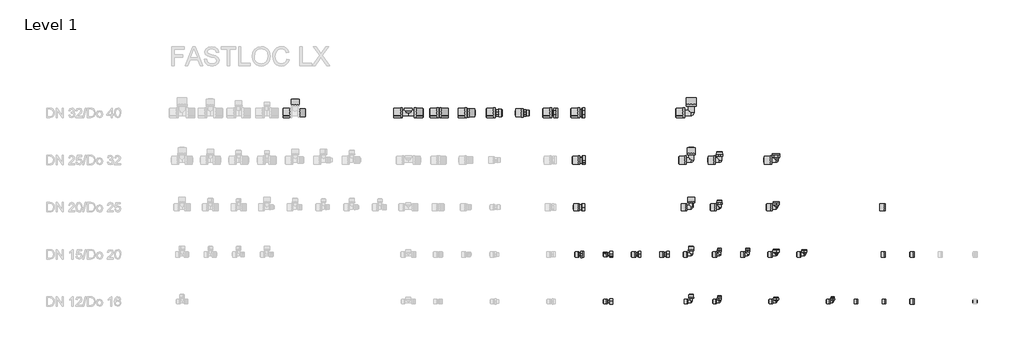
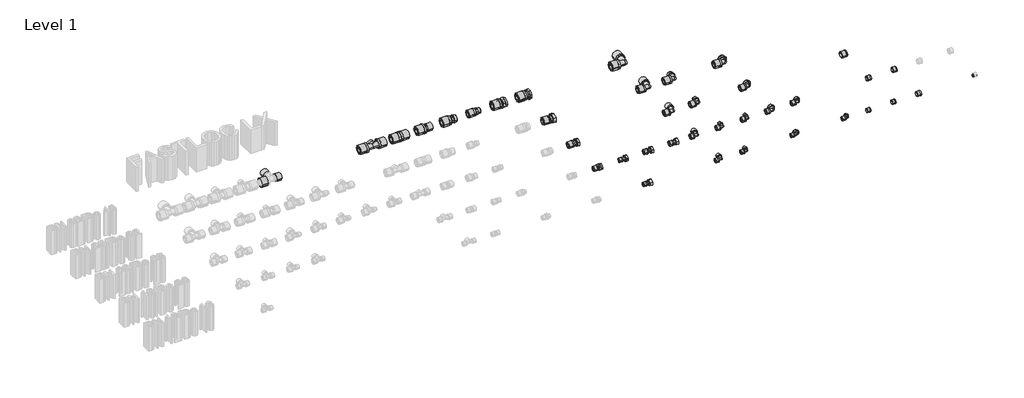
# One storey, part 3 of 4: 122 pipe fittings.
"""IFC4 building model written with IfcOpenShell, lengths in millimetres."""

from ifc_helpers import new_model, si_unit, origin, place, context, project, spatial, transform, mapped, element, save
from components import pipe_fitting_9e10578f, pipe_fitting_d1512616, pipe_fitting_53f43fdb, pipe_fitting_049613d0, pipe_fitting_50501386, pipe_fitting_01ff2310, pipe_fitting_9a552a0b, pipe_fitting_933a2e3b, pipe_fitting_c7c0347b, pipe_fitting_e0dfd6fd, pipe_fitting_bcc3186d, pipe_fitting_f7503da1, pipe_fitting_c58ddc77, pipe_fitting_002f9ae5, pipe_fitting_d68833d0, pipe_fitting_dabf108d, pipe_fitting_daad601f, pipe_fitting_3262be86, pipe_fitting_8c837d00, pipe_fitting_945405e2, pipe_fitting_fbe8b16e, pipe_fitting_253e9152, pipe_fitting_3a174489, pipe_fitting_05069365, pipe_fitting_bca47405, pipe_fitting_6786ca7f, pipe_fitting_3acb888a, pipe_fitting_35dab2b8, pipe_fitting_13315931, pipe_fitting_556e0823, pipe_fitting_0da8c5a8, pipe_fitting_e16683b4, pipe_fitting_32bb0f4b, pipe_fitting_87b3d625, pipe_fitting_c4201b5f, pipe_fitting_57945d78, sleeve_fsl_pvdf_6f319e2d, sleeve_fsl_pvdf_957fc3e3, sleeve_fsl_pvdf_9ecdae78, sleeve_fsl_pvdf_b286e573, sleeve_fsl_pvdf_64652941, sleeve_fsl_pvdf_bb947688

model = new_model("IFC4")

# Units and contexts
model_context = context("Model", 3, world=origin())
ifc_project = project(units=[si_unit("LENGTHUNIT", "METRE", prefix="MILLI")], contexts=[model_context])

# Site, building, storey
site = spatial("IfcSite", under=ifc_project)
building = spatial("IfcBuilding", under=site)
storey = spatial("IfcBuildingStorey", under=building, Name="Level 1", Elevation=0.0)

# Pipe fittings
placement = place(None, origin())
pipe_fitting_shape = pipe_fitting_9e10578f(model_context)
element("IfcPipeFitting", 1, ObjectType="FASTLOC_Sleeve outside : FSL S O DN1", at=placement, inside=storey, context=model_context, shape_type="MappedRepresentation", body=[
    mapped(pipe_fitting_shape, transform((3881.7, 0.0, 0.0), x_axis=(-1.0, 0.0, 0.0), y_axis=(0.0, -1.0, 0.0), z_axis=(0.0, 0.0, 1.0))),
])
pipe_fitting_2_shape = pipe_fitting_d1512616(model_context)
element("IfcPipeFitting", 2, ObjectType="FASTLOC_Sleeve outside : FSL S O DN1", at=placement, inside=storey, context=model_context, shape_type="MappedRepresentation", body=[
    mapped(pipe_fitting_2_shape, transform((3731.5, 0.0, 0.0), x_axis=(-1.0, 0.0, 0.0), y_axis=(0.0, -1.0, 0.0), z_axis=(0.0, 0.0, 1.0))),
])
element("IfcPipeFitting", 3, ObjectType="FASTLOC_Sleeve outside : FSL S O DN1", at=placement, inside=storey, context=model_context, shape_type="MappedRepresentation", body=[
    mapped(pipe_fitting_2_shape, transform((2254.0, 250.0, 0.0), x_axis=(-1.0, 0.0, 0.0), y_axis=(0.0, -1.0, 0.0), z_axis=(0.0, 0.0, 1.0))),
])
element("IfcPipeFitting", 4, ObjectType="FASTLOC_Sleeve outside : FSL S O DN1", at=placement, inside=storey, context=model_context, shape_type="MappedRepresentation", body=[
    mapped(pipe_fitting_2_shape, transform((2254.0, 0.0, 0.0), x_axis=(-1.0, 0.0, 0.0), y_axis=(0.0, -1.0, 0.0), z_axis=(0.0, 0.0, 1.0))),
])
element("IfcPipeFitting", 5, ObjectType="FASTLOC_Sleeve outside : FSL S O DN1", at=placement, inside=storey, context=model_context, shape_type="MappedRepresentation", body=[
    mapped(pipe_fitting_2_shape, transform((2681.9, 0.0, 0.0), x_axis=(-1.0, 0.0, 0.0), y_axis=(0.0, -1.0, 0.0), z_axis=(0.0, 0.0, 1.0))),
])
element("IfcPipeFitting", 6, ObjectType="FASTLOC_Sleeve outside : FSL S O DN1", at=placement, inside=storey, context=model_context, shape_type="MappedRepresentation", body=[
    mapped(pipe_fitting_2_shape, transform((2700.0, 18.1, 0.0), x_axis=(0.0, 1.0, 0.0), y_axis=(-1.0, 0.0, 0.0), z_axis=(0.0, 0.0, 1.0))),
])
element("IfcPipeFitting", 7, ObjectType="FASTLOC_Sleeve outside : FSL S O DN1", at=placement, inside=storey, context=model_context, shape_type="MappedRepresentation", body=[
    mapped(pipe_fitting_2_shape, transform((3131.7, 0.0, 0.0), x_axis=(-1.0, 0.0, 0.0), y_axis=(0.0, -1.0, 0.0), z_axis=(0.0, 0.0, 1.0))),
])
element("IfcPipeFitting", 8, ObjectType="FASTLOC_Sleeve outside : FSL S O DN1", at=placement, inside=storey, context=model_context, shape_type="MappedRepresentation", body=[
    mapped(pipe_fitting_2_shape, transform((3436.2, 0.0, 0.0), x_axis=(-1.0, 0.0, 0.0), y_axis=(0.0, -1.0, 0.0), z_axis=(0.0, 0.0, 1.0))),
])
element("IfcPipeFitting", 9, ObjectType="FASTLOC_Sleeve outside : FSL S O DN1", at=placement, inside=storey, context=model_context, shape_type="MappedRepresentation", body=[
    mapped(pipe_fitting_2_shape, transform((2834.2, 0.0, 0.0), x_axis=(-1.0, 0.0, 0.0), y_axis=(0.0, -1.0, 0.0), z_axis=(0.0, 0.0, 1.0))),
])
element("IfcPipeFitting", 10, ObjectType="FASTLOC_Sleeve outside : FSL S O DN1", at=placement, inside=storey, context=model_context, shape_type="MappedRepresentation", body=[
    mapped(pipe_fitting_2_shape, transform((3583.0, 0.0, 0.0), x_axis=(-1.0, 0.0, 0.0), y_axis=(0.0, -1.0, 0.0), z_axis=(0.0, 0.0, 1.0))),
])
pipe_fitting_3_shape = pipe_fitting_53f43fdb(model_context)
element("IfcPipeFitting", 11, ObjectType="FASTLOC_Sleeve outside : FSL S O DN1", at=placement, inside=storey, context=model_context, shape_type="MappedRepresentation", body=[
    mapped(pipe_fitting_3_shape, transform((3882.0, 250.0, 0.0), x_axis=(-1.0, 0.0, 0.0), y_axis=(0.0, -1.0, 0.0), z_axis=(0.0, 0.0, 1.0))),
])
element("IfcPipeFitting", 12, ObjectType="FASTLOC_Sleeve outside : FSL S O DN1", at=placement, inside=storey, context=model_context, shape_type="MappedRepresentation", body=[
    mapped(pipe_fitting_3_shape, transform((3728.7, 250.0, 0.0), x_axis=(-1.0, 0.0, 0.0), y_axis=(0.0, -1.0, 0.0), z_axis=(0.0, 0.0, 1.0))),
])
element("IfcPipeFitting", 13, ObjectType="FASTLOC_Sleeve outside : FSL S O DN1", at=placement, inside=storey, context=model_context, shape_type="MappedRepresentation", body=[
    mapped(pipe_fitting_3_shape, transform((2404.7, 250.0, 0.0), x_axis=(-1.0, 0.0, 0.0), y_axis=(0.0, -1.0, 0.0), z_axis=(0.0, 0.0, 1.0))),
])
element("IfcPipeFitting", 14, ObjectType="FASTLOC_Sleeve outside : FSL S O DN1", at=placement, inside=storey, context=model_context, shape_type="MappedRepresentation", body=[
    mapped(pipe_fitting_3_shape, transform((2554.7, 250.0, 0.0), x_axis=(-1.0, 0.0, 0.0), y_axis=(0.0, -1.0, 0.0), z_axis=(0.0, 0.0, 1.0))),
])
element("IfcPipeFitting", 15, ObjectType="FASTLOC_Sleeve outside : FSL S O DN1", at=placement, inside=storey, context=model_context, shape_type="MappedRepresentation", body=[
    mapped(pipe_fitting_3_shape, transform((2104.7, 250.0, 0.0), x_axis=(-1.0, 0.0, 0.0), y_axis=(0.0, -1.0, 0.0), z_axis=(0.0, 0.0, 1.0))),
])
element("IfcPipeFitting", 16, ObjectType="FASTLOC_Sleeve outside : FSL S O DN1", at=placement, inside=storey, context=model_context, shape_type="MappedRepresentation", body=[
    mapped(pipe_fitting_3_shape, transform((2680.1, 250.0, 0.0), x_axis=(-1.0, 0.0, 0.0), y_axis=(0.0, -1.0, 0.0), z_axis=(0.0, 0.0, 1.0))),
])
element("IfcPipeFitting", 17, ObjectType="FASTLOC_Sleeve outside : FSL S O DN1", at=placement, inside=storey, context=model_context, shape_type="MappedRepresentation", body=[
    mapped(pipe_fitting_3_shape, transform((2700.0, 269.9, 0.0), x_axis=(0.0, 1.0, 0.0), y_axis=(-1.0, 0.0, 0.0), z_axis=(0.0, 0.0, 1.0))),
])
element("IfcPipeFitting", 18, ObjectType="FASTLOC_Sleeve outside : FSL S O DN1", at=placement, inside=storey, context=model_context, shape_type="MappedRepresentation", body=[
    mapped(pipe_fitting_3_shape, transform((3282.0, 250.0, 0.0), x_axis=(-1.0, 0.0, 0.0), y_axis=(0.0, -1.0, 0.0), z_axis=(0.0, 0.0, 1.0))),
])
element("IfcPipeFitting", 19, ObjectType="FASTLOC_Sleeve outside : FSL S O DN1", at=placement, inside=storey, context=model_context, shape_type="MappedRepresentation", body=[
    mapped(pipe_fitting_3_shape, transform((3128.7, 250.0, 0.0), x_axis=(-1.0, 0.0, 0.0), y_axis=(0.0, -1.0, 0.0), z_axis=(0.0, 0.0, 1.0))),
])
element("IfcPipeFitting", 20, ObjectType="FASTLOC_Sleeve outside : FSL S O DN1", at=placement, inside=storey, context=model_context, shape_type="MappedRepresentation", body=[
    mapped(pipe_fitting_3_shape, transform((2834.5, 250.0, 0.0), x_axis=(-1.0, 0.0, 0.0), y_axis=(0.0, -1.0, 0.0), z_axis=(0.0, 0.0, 1.0))),
])
element("IfcPipeFitting", 21, ObjectType="FASTLOC_Sleeve outside : FSL S O DN1", at=placement, inside=storey, context=model_context, shape_type="MappedRepresentation", body=[
    mapped(pipe_fitting_3_shape, transform((2984.5, 250.0, 0.0), x_axis=(-1.0, 0.0, 0.0), y_axis=(0.0, -1.0, 0.0), z_axis=(0.0, 0.0, 1.0))),
])
pipe_fitting_4_shape = pipe_fitting_049613d0(model_context)
element("IfcPipeFitting", 22, ObjectType="FASTLOC_Sleeve outside : FSL S O DN1", at=placement, inside=storey, context=model_context, shape_type="MappedRepresentation", body=[
    mapped(pipe_fitting_4_shape, transform((3729.1, 500.0, 0.0), x_axis=(-1.0, 0.0, 0.0), y_axis=(0.0, -1.0, 0.0), z_axis=(0.0, 0.0, 1.0))),
])
element("IfcPipeFitting", 23, ObjectType="FASTLOC_Sleeve outside : FSL S O DN1", at=placement, inside=storey, context=model_context, shape_type="MappedRepresentation", body=[
    mapped(pipe_fitting_4_shape, transform((2105.7, 500.0, 0.0), x_axis=(-1.0, 0.0, 0.0), y_axis=(0.0, -1.0, 0.0), z_axis=(0.0, 0.0, 1.0))),
])
element("IfcPipeFitting", 24, ObjectType="FASTLOC_Sleeve outside : FSL S O DN1", at=placement, inside=storey, context=model_context, shape_type="MappedRepresentation", body=[
    mapped(pipe_fitting_4_shape, transform((2677.0, 500.0, 0.0), x_axis=(-1.0, 0.0, 0.0), y_axis=(0.0, -1.0, 0.0), z_axis=(0.0, 0.0, 1.0))),
])
element("IfcPipeFitting", 25, ObjectType="FASTLOC_Sleeve outside : FSL S O DN1", at=placement, inside=storey, context=model_context, shape_type="MappedRepresentation", body=[
    mapped(pipe_fitting_4_shape, transform((2700.0, 523.0, 0.0), x_axis=(0.0, 1.0, 0.0), y_axis=(-1.0, 0.0, 0.0), z_axis=(0.0, 0.0, 1.0))),
])
element("IfcPipeFitting", 26, ObjectType="FASTLOC_Sleeve outside : FSL S O DN1", at=placement, inside=storey, context=model_context, shape_type="MappedRepresentation", body=[
    mapped(pipe_fitting_4_shape, transform((3129.0, 500.0, 0.0), x_axis=(-1.0, 0.0, 0.0), y_axis=(0.0, -1.0, 0.0), z_axis=(0.0, 0.0, 1.0))),
])
element("IfcPipeFitting", 27, ObjectType="FASTLOC_Sleeve outside : FSL S O DN1", at=placement, inside=storey, context=model_context, shape_type="MappedRepresentation", body=[
    mapped(pipe_fitting_4_shape, transform((2831.8, 500.0, 0.0), x_axis=(-1.0, 0.0, 0.0), y_axis=(0.0, -1.0, 0.0), z_axis=(0.0, 0.0, 1.0))),
])
pipe_fitting_5_shape = pipe_fitting_50501386(model_context)
element("IfcPipeFitting", 28, ObjectType="FASTLOC_Adapter with union nut LX : FSL A union nut PL", at=placement, inside=storey, context=model_context, shape_type="MappedRepresentation", body=[
    mapped(pipe_fitting_5_shape, transform((2259.0, 250.0, 0.0), x_axis=(1.0, 0.0, 0.0), y_axis=(0.0, 1.0, 0.0), z_axis=(0.0, 0.0, 1.0))),
])
pipe_fitting_6_shape = pipe_fitting_01ff2310(model_context)
element("IfcPipeFitting", 29, ObjectType="FASTLOC_Adapter with union nut LX : FSL A union nut PL", at=placement, inside=storey, context=model_context, shape_type="MappedRepresentation", body=[
    mapped(pipe_fitting_6_shape, transform((2409.0, 250.0, 0.0), x_axis=(1.0, 0.0, 0.0), y_axis=(0.0, 1.0, 0.0), z_axis=(0.0, 0.0, 1.0))),
])
pipe_fitting_7_shape = pipe_fitting_9a552a0b(model_context)
element("IfcPipeFitting", 30, ObjectType="FASTLOC_Adapter with union nut LX : FSL A union nut PL", at=placement, inside=storey, context=model_context, shape_type="MappedRepresentation", body=[
    mapped(pipe_fitting_7_shape, transform((2559.0, 250.0, 0.0), x_axis=(1.0, 0.0, 0.0), y_axis=(0.0, 1.0, 0.0), z_axis=(0.0, 0.0, 1.0))),
])
pipe_fitting_8_shape = pipe_fitting_933a2e3b(model_context)
element("IfcPipeFitting", 31, ObjectType="FASTLOC_Adapter with union nut LX : FSL A union nut PL", at=placement, inside=storey, context=model_context, shape_type="MappedRepresentation", body=[
    mapped(pipe_fitting_8_shape, transform((2110.0, 500.0, 0.0), x_axis=(1.0, 0.0, 0.0), y_axis=(0.0, 1.0, 0.0), z_axis=(0.0, 0.0, 1.0))),
])
pipe_fitting_9_shape = pipe_fitting_c7c0347b(model_context)
element("IfcPipeFitting", 32, ObjectType="FASTLOC_Sleeve outside : FSL S O DN1", at=placement, inside=storey, context=model_context, shape_type="MappedRepresentation", body=[
    mapped(pipe_fitting_9_shape, transform((2108.0, 750.0, 0.0), x_axis=(-1.0, 0.0, 0.0), y_axis=(0.0, -1.0, 0.0), z_axis=(0.0, 0.0, 1.0))),
])
element("IfcPipeFitting", 33, ObjectType="FASTLOC_Sleeve outside : FSL S O DN1", at=placement, inside=storey, context=model_context, shape_type="MappedRepresentation", body=[
    mapped(pipe_fitting_9_shape, transform((1808.0, 1000.0, 0.0), x_axis=(-1.0, 0.0, 0.0), y_axis=(0.0, -1.0, 0.0), z_axis=(0.0, 0.0, 1.0))),
])
element("IfcPipeFitting", 34, ObjectType="FASTLOC_Sleeve outside : FSL S O DN1", at=placement, inside=storey, context=model_context, shape_type="MappedRepresentation", body=[
    mapped(pipe_fitting_9_shape, transform((2673.0, 750.0, 0.0), x_axis=(-1.0, 0.0, 0.0), y_axis=(0.0, -1.0, 0.0), z_axis=(0.0, 0.0, 1.0))),
])
element("IfcPipeFitting", 35, ObjectType="FASTLOC_Sleeve outside : FSL S O DN1", at=placement, inside=storey, context=model_context, shape_type="MappedRepresentation", body=[
    mapped(pipe_fitting_9_shape, transform((2700.0, 777.0, 0.0), x_axis=(0.0, 1.0, 0.0), y_axis=(-1.0, 0.0, 0.0), z_axis=(0.0, 0.0, 1.0))),
])
element("IfcPipeFitting", 36, ObjectType="FASTLOC_Sleeve outside : FSL S O DN1", at=placement, inside=storey, context=model_context, shape_type="MappedRepresentation", body=[
    mapped(pipe_fitting_9_shape, transform((1514.5, 1000.0, 0.0), x_axis=(1.0, 0.0, 0.0), y_axis=(0.0, 1.0, 0.0), z_axis=(0.0, 0.0, 1.0))),
])
element("IfcPipeFitting", 37, ObjectType="FASTLOC_Sleeve outside : FSL S O DN1", at=placement, inside=storey, context=model_context, shape_type="MappedRepresentation", body=[
    mapped(pipe_fitting_9_shape, transform((3126.0, 750.0, 0.0), x_axis=(-1.0, 0.0, 0.0), y_axis=(0.0, -1.0, 0.0), z_axis=(0.0, 0.0, 1.0))),
])
element("IfcPipeFitting", 38, ObjectType="FASTLOC_Sleeve outside : FSL S O DN1", at=placement, inside=storey, context=model_context, shape_type="MappedRepresentation", body=[
    mapped(pipe_fitting_9_shape, transform((2828.3, 750.0, 0.0), x_axis=(-1.0, 0.0, 0.0), y_axis=(0.0, -1.0, 0.0), z_axis=(0.0, 0.0, 1.0))),
])
pipe_fitting_10_shape = pipe_fitting_e0dfd6fd(model_context)
element("IfcPipeFitting", 39, ObjectType="FASTLOC_Adapter with union nut LX : FSL A union nut PL", at=placement, inside=storey, context=model_context, shape_type="MappedRepresentation", body=[
    mapped(pipe_fitting_10_shape, transform((2110.0, 1000.0, 0.0), x_axis=(1.0, 0.0, 0.0), y_axis=(0.0, 1.0, 0.0), z_axis=(0.0, 0.0, 1.0))),
])
pipe_fitting_11_shape = pipe_fitting_bcc3186d(model_context)
element("IfcPipeFitting", 40, ObjectType="FASTLOC_Sleeve outside : FSL S O DN1", at=placement, inside=storey, context=model_context, shape_type="MappedRepresentation", body=[
    mapped(pipe_fitting_11_shape, transform((2108.5, 1000.0, 0.0), x_axis=(-1.0, 0.0, 0.0), y_axis=(0.0, -1.0, 0.0), z_axis=(0.0, 0.0, 1.0))),
])
element("IfcPipeFitting", 41, ObjectType="FASTLOC_Sleeve outside : FSL S O DN1", at=placement, inside=storey, context=model_context, shape_type="MappedRepresentation", body=[
    mapped(pipe_fitting_11_shape, transform((1660.0, 1000.0, 0.0), x_axis=(-1.0, 0.0, 0.0), y_axis=(0.0, -1.0, 0.0), z_axis=(0.0, 0.0, 1.0))),
])
element("IfcPipeFitting", 42, ObjectType="FASTLOC_Sleeve outside : FSL S O DN1", at=placement, inside=storey, context=model_context, shape_type="MappedRepresentation", body=[
    mapped(pipe_fitting_11_shape, transform((1960.0, 1000.0, 0.0), x_axis=(-1.0, 0.0, 0.0), y_axis=(0.0, -1.0, 0.0), z_axis=(0.0, 0.0, 1.0))),
])
element("IfcPipeFitting", 43, ObjectType="FASTLOC_Sleeve outside : FSL S O DN1", at=placement, inside=storey, context=model_context, shape_type="MappedRepresentation", body=[
    mapped(pipe_fitting_11_shape, transform((2665.3, 1000.0, 0.0), x_axis=(-1.0, 0.0, 0.0), y_axis=(0.0, -1.0, 0.0), z_axis=(0.0, 0.0, 1.0))),
])
element("IfcPipeFitting", 44, ObjectType="FASTLOC_Sleeve outside : FSL S O DN1", at=placement, inside=storey, context=model_context, shape_type="MappedRepresentation", body=[
    mapped(pipe_fitting_11_shape, transform((2700.0, 1034.7, 0.0), x_axis=(0.0, 1.0, 0.0), y_axis=(-1.0, 0.0, 0.0), z_axis=(0.0, 0.0, 1.0))),
])
element("IfcPipeFitting", 45, ObjectType="FASTLOC_Sleeve outside : FSL S O DN1", at=placement, inside=storey, context=model_context, shape_type="MappedRepresentation", body=[
    mapped(pipe_fitting_11_shape, transform((1360.0, 1000.0, 0.0), x_axis=(-1.0, 0.0, 0.0), y_axis=(0.0, -1.0, 0.0), z_axis=(0.0, 0.0, 1.0))),
])
element("IfcPipeFitting", 46, ObjectType="FASTLOC_Sleeve outside : FSL S O DN1", at=placement, inside=storey, context=model_context, shape_type="MappedRepresentation", body=[
    mapped(pipe_fitting_11_shape, transform((1365.4, 1000.0, 0.0), x_axis=(1.0, 0.0, 0.0), y_axis=(0.0, 1.0, 0.0), z_axis=(0.0, 0.0, 1.0))),
])
element("IfcPipeFitting", 47, ObjectType="FASTLOC_Sleeve outside : FSL S O DN1", at=placement, inside=storey, context=model_context, shape_type="MappedRepresentation", body=[
    mapped(pipe_fitting_11_shape, transform((1510.0, 1000.0, 0.0), x_axis=(-1.0, 0.0, 0.0), y_axis=(0.0, -1.0, 0.0), z_axis=(0.0, 0.0, 1.0))),
])
element("IfcPipeFitting", 48, ObjectType="FASTLOC_Sleeve outside : FSL S O DN1", at=placement, inside=storey, context=model_context, shape_type="MappedRepresentation", body=[
    mapped(pipe_fitting_11_shape, transform((1168.7, 1000.0, 0.0), x_axis=(-1.0, 0.0, 0.0), y_axis=(0.0, -1.0, 0.0), z_axis=(0.0, 0.0, 1.0))),
])
element("IfcPipeFitting", 49, ObjectType="FASTLOC_Sleeve outside : FSL S O DN1", at=placement, inside=storey, context=model_context, shape_type="MappedRepresentation", body=[
    mapped(pipe_fitting_11_shape, transform((1231.3, 1000.0, 0.0), x_axis=(1.0, 0.0, 0.0), y_axis=(0.0, 1.0, 0.0), z_axis=(0.0, 0.0, 1.0))),
])
pipe_fitting_12_shape = pipe_fitting_f7503da1(model_context)
element("IfcPipeFitting", 50, ObjectType="FASTLOC_Adapter with union nut LX : FSL A union nut PL", at=placement, inside=storey, context=model_context, shape_type="MappedRepresentation", body=[
    mapped(pipe_fitting_12_shape, transform((2259.0, 0.0, 0.0), x_axis=(1.0, 0.0, 0.0), y_axis=(0.0, 1.0, 0.0), z_axis=(0.0, 0.0, 1.0))),
])
pipe_fitting_13_shape = pipe_fitting_c58ddc77(model_context)
element("IfcPipeFitting", 51, ObjectType="FASTLOC_Adapter_LX, with external thread : FSL A C external PL", at=placement, inside=storey, context=model_context, shape_type="MappedRepresentation", body=[
    mapped(pipe_fitting_13_shape, transform((1814.6, 1000.0, 0.0), x_axis=(1.0, 0.0, 0.0), y_axis=(0.0, 1.0, 0.0), z_axis=(0.0, 0.0, 1.0))),
])
pipe_fitting_14_shape = pipe_fitting_002f9ae5(model_context)
element("IfcPipeFitting", 52, ObjectType="FASTLOC_Adapter_LX, with external thread : FSL A C external PL", at=placement, inside=storey, context=model_context, shape_type="MappedRepresentation", body=[
    mapped(pipe_fitting_14_shape, transform((1666.4, 1000.0, 0.0), x_axis=(1.0, 0.0, 0.0), y_axis=(0.0, 1.0, 0.0), z_axis=(0.0, 0.0, 1.0))),
])
pipe_fitting_15_shape = pipe_fitting_d68833d0(model_context)
element("IfcPipeFitting", 53, ObjectType="FASTLOC_Adapter_LX, with internal thread : FSL A internal PL", at=placement, inside=storey, context=model_context, shape_type="MappedRepresentation", body=[
    mapped(pipe_fitting_15_shape, transform((2113.3, 250.0, 0.0), x_axis=(1.0, 0.0, 0.0), y_axis=(0.0, 1.0, 0.0), z_axis=(0.0, 0.0, 1.0))),
])
pipe_fitting_16_shape = pipe_fitting_dabf108d(model_context)
element("IfcPipeFitting", 54, ObjectType="FASTLOC_Adapter_LX, with internal thread : FSL A internal PL", at=placement, inside=storey, context=model_context, shape_type="MappedRepresentation", body=[
    mapped(pipe_fitting_16_shape, transform((1970.0, 1000.0, 0.0), x_axis=(1.0, 0.0, 0.0), y_axis=(0.0, 1.0, 0.0), z_axis=(0.0, 0.0, 1.0))),
])
pipe_fitting_17_shape = pipe_fitting_daad601f(model_context)
element("IfcPipeFitting", 55, ObjectType="FASTLOC_Corner LX : FSL C LX PL", at=placement, inside=storey, context=model_context, shape_type="MappedRepresentation", body=[
    mapped(pipe_fitting_17_shape, transform((2700.0, 250.0, 0.0), x_axis=(1.0, 0.0, 0.0), y_axis=(0.0, 1.0, 0.0), z_axis=(0.0, 0.0, 1.0))),
])
pipe_fitting_18_shape = pipe_fitting_3262be86(model_context)
element("IfcPipeFitting", 56, ObjectType="FASTLOC_Corner LX : FSL C LX PL", at=placement, inside=storey, context=model_context, shape_type="MappedRepresentation", body=[
    mapped(pipe_fitting_18_shape, transform((2700.0, 500.0, 0.0), x_axis=(1.0, 0.0, 0.0), y_axis=(0.0, 1.0, 0.0), z_axis=(0.0, 0.0, 1.0))),
])
pipe_fitting_19_shape = pipe_fitting_8c837d00(model_context)
element("IfcPipeFitting", 57, ObjectType="FASTLOC_Corner LX : FSL C LX PL", at=placement, inside=storey, context=model_context, shape_type="MappedRepresentation", body=[
    mapped(pipe_fitting_19_shape, transform((2700.0, 750.0, 0.0), x_axis=(1.0, 0.0, 0.0), y_axis=(0.0, 1.0, 0.0), z_axis=(0.0, 0.0, 1.0))),
])
pipe_fitting_20_shape = pipe_fitting_945405e2(model_context)
element("IfcPipeFitting", 58, ObjectType="FASTLOC_Corner LX : FSL C LX PL", at=placement, inside=storey, context=model_context, shape_type="MappedRepresentation", body=[
    mapped(pipe_fitting_20_shape, transform((2700.0, 1000.0, 0.0), x_axis=(1.0, 0.0, 0.0), y_axis=(0.0, 1.0, 0.0), z_axis=(0.0, 0.0, 1.0))),
])
pipe_fitting_21_shape = pipe_fitting_fbe8b16e(model_context)
element("IfcPipeFitting", 59, ObjectType="FASTLOC_Coupling equal LX : FSL C LX PL", at=placement, inside=storey, context=model_context, shape_type="MappedRepresentation", body=[
    mapped(pipe_fitting_21_shape, transform((1362.7, 1000.0, 0.0), x_axis=(1.0, 0.0, 0.0), y_axis=(0.0, 1.0, 0.0), z_axis=(0.0, 0.0, 1.0))),
])
pipe_fitting_22_shape = pipe_fitting_253e9152(model_context)
element("IfcPipeFitting", 60, ObjectType="FASTLOC_Elbow with female thread LX : FSL A internal PL", at=placement, inside=storey, context=model_context, shape_type="MappedRepresentation", body=[
    mapped(pipe_fitting_22_shape, transform((3300.0, 250.0, 0.0), x_axis=(1.0, 0.0, 0.0), y_axis=(0.0, 1.0, 0.0), z_axis=(0.0, 0.0, 1.0))),
])
pipe_fitting_23_shape = pipe_fitting_3a174489(model_context)
element("IfcPipeFitting", 61, ObjectType="FASTLOC_Elbow with female thread LX : FSL A internal PL", at=placement, inside=storey, context=model_context, shape_type="MappedRepresentation", body=[
    mapped(pipe_fitting_23_shape, transform((3150.0, 250.0, 0.0), x_axis=(1.0, 0.0, 0.0), y_axis=(0.0, 1.0, 0.0), z_axis=(0.0, 0.0, 1.0))),
])
pipe_fitting_24_shape = pipe_fitting_05069365(model_context)
element("IfcPipeFitting", 62, ObjectType="FASTLOC_Elbow with female thread LX : FSL A internal PL", at=placement, inside=storey, context=model_context, shape_type="MappedRepresentation", body=[
    mapped(pipe_fitting_24_shape, transform((3150.0, 500.0, 0.0), x_axis=(1.0, 0.0, 0.0), y_axis=(0.0, 1.0, 0.0), z_axis=(0.0, 0.0, 1.0))),
])
pipe_fitting_25_shape = pipe_fitting_bca47405(model_context)
element("IfcPipeFitting", 63, ObjectType="FASTLOC_Elbow with female thread LX : FSL A internal PL", at=placement, inside=storey, context=model_context, shape_type="MappedRepresentation", body=[
    mapped(pipe_fitting_25_shape, transform((3150.0, 750.0, 0.0), x_axis=(1.0, 0.0, 0.0), y_axis=(0.0, 1.0, 0.0), z_axis=(0.0, 0.0, 1.0))),
])
pipe_fitting_26_shape = pipe_fitting_6786ca7f(model_context)
element("IfcPipeFitting", 64, ObjectType="FASTLOC_Elbow with male thread LX : FSL A internal PL", at=placement, inside=storey, context=model_context, shape_type="MappedRepresentation", body=[
    mapped(pipe_fitting_26_shape, transform((2850.0, 500.0, 0.0), x_axis=(1.0, 0.0, 0.0), y_axis=(0.0, 1.0, 0.0), z_axis=(0.0, 0.0, 1.0))),
])
pipe_fitting_27_shape = pipe_fitting_3acb888a(model_context)
element("IfcPipeFitting", 65, ObjectType="FASTLOC_Elbow with male thread LX : FSL A internal PL", at=placement, inside=storey, context=model_context, shape_type="MappedRepresentation", body=[
    mapped(pipe_fitting_27_shape, transform((2850.0, 750.0, 0.0), x_axis=(1.0, 0.0, 0.0), y_axis=(0.0, 1.0, 0.0), z_axis=(0.0, 0.0, 1.0))),
])
pipe_fitting_28_shape = pipe_fitting_35dab2b8(model_context)
element("IfcPipeFitting", 66, ObjectType="FASTLOC_T-piece internal thread LX : FSL T thread LX PL", at=placement, inside=storey, context=model_context, shape_type="MappedRepresentation", body=[
    mapped(pipe_fitting_28_shape, transform((1200.0, 1000.0, 0.0), x_axis=(1.0, 0.0, 0.0), y_axis=(0.0, 1.0, 0.0), z_axis=(0.0, 0.0, 1.0))),
])
pipe_fitting_29_shape = pipe_fitting_13315931(model_context)
element("IfcPipeFitting", 67, ObjectType="FASTLOC_Elbow with male thread LX : FSL A internal PL", at=placement, inside=storey, context=model_context, shape_type="MappedRepresentation", body=[
    mapped(pipe_fitting_29_shape, transform((2850.0, 0.0, 0.0), x_axis=(1.0, 0.0, 0.0), y_axis=(0.0, 1.0, 0.0), z_axis=(0.0, 0.0, 1.0))),
])
pipe_fitting_30_shape = pipe_fitting_556e0823(model_context)
element("IfcPipeFitting", 68, ObjectType="FASTLOC_Adapter with union nut LX : FSL A union nut PL", at=placement, inside=storey, context=model_context, shape_type="MappedRepresentation", body=[
    mapped(pipe_fitting_30_shape, transform((2111.5, 750.0, 0.0), x_axis=(1.0, 0.0, 0.0), y_axis=(0.0, 1.0, 0.0), z_axis=(0.0, 0.0, 1.0))),
])
pipe_fitting_31_shape = pipe_fitting_0da8c5a8(model_context)
element("IfcPipeFitting", 69, ObjectType="FASTLOC_Blanking plug LX : FSL Bp LX PL", at=placement, inside=storey, context=model_context, shape_type="MappedRepresentation", body=[
    mapped(pipe_fitting_31_shape, transform((4193.3, 0.0, 0.0), x_axis=(1.0, 0.0, 0.0), y_axis=(0.0, 1.0, 0.0), z_axis=(0.0, 0.0, 1.0))),
])
pipe_fitting_32_shape = pipe_fitting_e16683b4(model_context)
element("IfcPipeFitting", 70, ObjectType="FASTLOC_Corner LX : FSL C LX PL", at=placement, inside=storey, context=model_context, shape_type="MappedRepresentation", body=[
    mapped(pipe_fitting_32_shape, transform((2700.0, 0.0, 0.0), x_axis=(1.0, 0.0, 0.0), y_axis=(0.0, 1.0, 0.0), z_axis=(0.0, 0.0, 1.0))),
])
pipe_fitting_33_shape = pipe_fitting_32bb0f4b(model_context)
element("IfcPipeFitting", 71, ObjectType="FASTLOC_Coupling reduced LX : FSL C LX PL", at=placement, inside=storey, context=model_context, shape_type="MappedRepresentation", body=[
    mapped(pipe_fitting_33_shape, transform((1511.6, 1000.0, 0.0), x_axis=(1.0, 0.0, 0.0), y_axis=(0.0, 1.0, 0.0), z_axis=(0.0, 0.0, 1.0))),
])
pipe_fitting_34_shape = pipe_fitting_87b3d625(model_context)
element("IfcPipeFitting", 72, ObjectType="FASTLOC_Elbow with female thread LX : FSL A internal PL", at=placement, inside=storey, context=model_context, shape_type="MappedRepresentation", body=[
    mapped(pipe_fitting_34_shape, transform((3150.0, 0.0, 0.0), x_axis=(1.0, 0.0, 0.0), y_axis=(0.0, 1.0, 0.0), z_axis=(0.0, 0.0, 1.0))),
])
pipe_fitting_35_shape = pipe_fitting_c4201b5f(model_context)
element("IfcPipeFitting", 73, ObjectType="FASTLOC_Elbow with male thread G LX : FSL A internal PL", at=placement, inside=storey, context=model_context, shape_type="MappedRepresentation", body=[
    mapped(pipe_fitting_35_shape, transform((3450.0, 0.0, 0.0), x_axis=(1.0, 0.0, 0.0), y_axis=(0.0, 1.0, 0.0), z_axis=(0.0, 0.0, 1.0))),
])
pipe_fitting_36_shape = pipe_fitting_57945d78(model_context)
element("IfcPipeFitting", 74, ObjectType="FASTLOC_Elbow with male thread LX : FSL A internal PL", at=placement, inside=storey, context=model_context, shape_type="MappedRepresentation", body=[
    mapped(pipe_fitting_36_shape, transform((2850.0, 250.0, 0.0), x_axis=(1.0, 0.0, 0.0), y_axis=(0.0, 1.0, 0.0), z_axis=(0.0, 0.0, 1.0))),
])
element("IfcPipeFitting", 75, ObjectType="FASTLOC_Elbow with male thread LX : FSL A internal PL", at=placement, inside=storey, context=model_context, shape_type="MappedRepresentation", body=[
    mapped(pipe_fitting_36_shape, transform((3000.0, 250.0, 0.0), x_axis=(1.0, 0.0, 0.0), y_axis=(0.0, 1.0, 0.0), z_axis=(0.0, 0.0, 1.0))),
])
sleeve_fsl_pvdf_shape = sleeve_fsl_pvdf_6f319e2d(model_context)
element("IfcPipeFitting", 76, ObjectType="Sleeve : FSL PVDF", at=placement, inside=storey, context=model_context, shape_type="MappedRepresentation", body=[
    mapped(sleeve_fsl_pvdf_shape, transform((3877.0, 0.0, 0.0), x_axis=(-1.0, 0.0, 0.0), y_axis=(0.0, -1.0, 0.0), z_axis=(0.0, 0.0, 1.0))),
])
sleeve_fsl_pvdf_2_shape = sleeve_fsl_pvdf_957fc3e3(model_context)
element("IfcPipeFitting", 77, ObjectType="Sleeve : FSL PVDF", at=placement, inside=storey, context=model_context, shape_type="MappedRepresentation", body=[
    mapped(sleeve_fsl_pvdf_2_shape, transform((3727.5, 0.0, 0.0), x_axis=(-1.0, 0.0, 0.0), y_axis=(0.0, -1.0, 0.0), z_axis=(0.0, 0.0, 1.0))),
])
element("IfcPipeFitting", 78, ObjectType="Sleeve : FSL PVDF", at=placement, inside=storey, context=model_context, shape_type="MappedRepresentation", body=[
    mapped(sleeve_fsl_pvdf_2_shape, transform((2250.0, 250.0, 0.0), x_axis=(-1.0, 0.0, 0.0), y_axis=(0.0, -1.0, 0.0), z_axis=(0.0, 0.0, 1.0))),
])
element("IfcPipeFitting", 79, ObjectType="Sleeve : FSL PVDF", at=placement, inside=storey, context=model_context, shape_type="MappedRepresentation", body=[
    mapped(sleeve_fsl_pvdf_2_shape, transform((2250.0, 0.0, 0.0), x_axis=(-1.0, 0.0, 0.0), y_axis=(0.0, -1.0, 0.0), z_axis=(0.0, 0.0, 1.0))),
])
element("IfcPipeFitting", 80, ObjectType="Sleeve : FSL PVDF", at=placement, inside=storey, context=model_context, shape_type="MappedRepresentation", body=[
    mapped(sleeve_fsl_pvdf_2_shape, transform((2677.9, 0.0, 0.0), x_axis=(-1.0, 0.0, 0.0), y_axis=(0.0, -1.0, 0.0), z_axis=(0.0, 0.0, 1.0))),
])
element("IfcPipeFitting", 81, ObjectType="Sleeve : FSL PVDF", at=placement, inside=storey, context=model_context, shape_type="MappedRepresentation", body=[
    mapped(sleeve_fsl_pvdf_2_shape, transform((2700.0, 22.1, 0.0), x_axis=(0.0, 1.0, 0.0), y_axis=(-1.0, 0.0, 0.0), z_axis=(0.0, 0.0, 1.0))),
])
element("IfcPipeFitting", 82, ObjectType="Sleeve : FSL PVDF", at=placement, inside=storey, context=model_context, shape_type="MappedRepresentation", body=[
    mapped(sleeve_fsl_pvdf_2_shape, transform((3127.7, 0.0, 0.0), x_axis=(-1.0, 0.0, 0.0), y_axis=(0.0, -1.0, 0.0), z_axis=(0.0, 0.0, 1.0))),
])
element("IfcPipeFitting", 83, ObjectType="Sleeve : FSL PVDF", at=placement, inside=storey, context=model_context, shape_type="MappedRepresentation", body=[
    mapped(sleeve_fsl_pvdf_2_shape, transform((3432.2, 0.0, 0.0), x_axis=(-1.0, 0.0, 0.0), y_axis=(0.0, -1.0, 0.0), z_axis=(0.0, 0.0, 1.0))),
])
element("IfcPipeFitting", 84, ObjectType="Sleeve : FSL PVDF", at=placement, inside=storey, context=model_context, shape_type="MappedRepresentation", body=[
    mapped(sleeve_fsl_pvdf_2_shape, transform((2830.2, 0.0, 0.0), x_axis=(-1.0, 0.0, 0.0), y_axis=(0.0, -1.0, 0.0), z_axis=(0.0, 0.0, 1.0))),
])
element("IfcPipeFitting", 85, ObjectType="Sleeve : FSL PVDF", at=placement, inside=storey, context=model_context, shape_type="MappedRepresentation", body=[
    mapped(sleeve_fsl_pvdf_2_shape, transform((3579.0, 0.0, 0.0), x_axis=(-1.0, 0.0, 0.0), y_axis=(0.0, -1.0, 0.0), z_axis=(0.0, 0.0, 1.0))),
])
sleeve_fsl_pvdf_3_shape = sleeve_fsl_pvdf_9ecdae78(model_context)
element("IfcPipeFitting", 86, ObjectType="Sleeve : FSL PVDF", at=placement, inside=storey, context=model_context, shape_type="MappedRepresentation", body=[
    mapped(sleeve_fsl_pvdf_3_shape, transform((3877.3, 250.0, 0.0), x_axis=(-1.0, 0.0, 0.0), y_axis=(0.0, -1.0, 0.0), z_axis=(0.0, 0.0, 1.0))),
])
element("IfcPipeFitting", 87, ObjectType="Sleeve : FSL PVDF", at=placement, inside=storey, context=model_context, shape_type="MappedRepresentation", body=[
    mapped(sleeve_fsl_pvdf_3_shape, transform((3724.0, 250.0, 0.0), x_axis=(-1.0, 0.0, 0.0), y_axis=(0.0, -1.0, 0.0), z_axis=(0.0, 0.0, 1.0))),
])
element("IfcPipeFitting", 88, ObjectType="Sleeve : FSL PVDF", at=placement, inside=storey, context=model_context, shape_type="MappedRepresentation", body=[
    mapped(sleeve_fsl_pvdf_3_shape, transform((2400.0, 250.0, 0.0), x_axis=(-1.0, 0.0, 0.0), y_axis=(0.0, -1.0, 0.0), z_axis=(0.0, 0.0, 1.0))),
])
element("IfcPipeFitting", 89, ObjectType="Sleeve : FSL PVDF", at=placement, inside=storey, context=model_context, shape_type="MappedRepresentation", body=[
    mapped(sleeve_fsl_pvdf_3_shape, transform((2550.0, 250.0, 0.0), x_axis=(-1.0, 0.0, 0.0), y_axis=(0.0, -1.0, 0.0), z_axis=(0.0, 0.0, 1.0))),
])
element("IfcPipeFitting", 90, ObjectType="Sleeve : FSL PVDF", at=placement, inside=storey, context=model_context, shape_type="MappedRepresentation", body=[
    mapped(sleeve_fsl_pvdf_3_shape, transform((2100.0, 250.0, 0.0), x_axis=(-1.0, 0.0, 0.0), y_axis=(0.0, -1.0, 0.0), z_axis=(0.0, 0.0, 1.0))),
])
element("IfcPipeFitting", 91, ObjectType="Sleeve : FSL PVDF", at=placement, inside=storey, context=model_context, shape_type="MappedRepresentation", body=[
    mapped(sleeve_fsl_pvdf_3_shape, transform((2675.4, 250.0, 0.0), x_axis=(-1.0, 0.0, 0.0), y_axis=(0.0, -1.0, 0.0), z_axis=(0.0, 0.0, 1.0))),
])
element("IfcPipeFitting", 92, ObjectType="Sleeve : FSL PVDF", at=placement, inside=storey, context=model_context, shape_type="MappedRepresentation", body=[
    mapped(sleeve_fsl_pvdf_3_shape, transform((2700.0, 274.6, 0.0), x_axis=(0.0, 1.0, 0.0), y_axis=(-1.0, 0.0, 0.0), z_axis=(0.0, 0.0, 1.0))),
])
element("IfcPipeFitting", 93, ObjectType="Sleeve : FSL PVDF", at=placement, inside=storey, context=model_context, shape_type="MappedRepresentation", body=[
    mapped(sleeve_fsl_pvdf_3_shape, transform((3277.3, 250.0, 0.0), x_axis=(-1.0, 0.0, 0.0), y_axis=(0.0, -1.0, 0.0), z_axis=(0.0, 0.0, 1.0))),
])
element("IfcPipeFitting", 94, ObjectType="Sleeve : FSL PVDF", at=placement, inside=storey, context=model_context, shape_type="MappedRepresentation", body=[
    mapped(sleeve_fsl_pvdf_3_shape, transform((3124.0, 250.0, 0.0), x_axis=(-1.0, 0.0, 0.0), y_axis=(0.0, -1.0, 0.0), z_axis=(0.0, 0.0, 1.0))),
])
element("IfcPipeFitting", 95, ObjectType="Sleeve : FSL PVDF", at=placement, inside=storey, context=model_context, shape_type="MappedRepresentation", body=[
    mapped(sleeve_fsl_pvdf_3_shape, transform((2829.8, 250.0, 0.0), x_axis=(-1.0, 0.0, 0.0), y_axis=(0.0, -1.0, 0.0), z_axis=(0.0, 0.0, 1.0))),
])
element("IfcPipeFitting", 96, ObjectType="Sleeve : FSL PVDF", at=placement, inside=storey, context=model_context, shape_type="MappedRepresentation", body=[
    mapped(sleeve_fsl_pvdf_3_shape, transform((2979.8, 250.0, 0.0), x_axis=(-1.0, 0.0, 0.0), y_axis=(0.0, -1.0, 0.0), z_axis=(0.0, 0.0, 1.0))),
])
sleeve_fsl_pvdf_4_shape = sleeve_fsl_pvdf_b286e573(model_context)
element("IfcPipeFitting", 97, ObjectType="Sleeve : FSL PVDF", at=placement, inside=storey, context=model_context, shape_type="MappedRepresentation", body=[
    mapped(sleeve_fsl_pvdf_4_shape, transform((3723.1, 500.0, 0.0), x_axis=(-1.0, 0.0, 0.0), y_axis=(0.0, -1.0, 0.0), z_axis=(0.0, 0.0, 1.0))),
])
element("IfcPipeFitting", 98, ObjectType="Sleeve : FSL PVDF", at=placement, inside=storey, context=model_context, shape_type="MappedRepresentation", body=[
    mapped(sleeve_fsl_pvdf_4_shape, transform((2099.7, 500.0, 0.0), x_axis=(-1.0, 0.0, 0.0), y_axis=(0.0, -1.0, 0.0), z_axis=(0.0, 0.0, 1.0))),
])
element("IfcPipeFitting", 99, ObjectType="Sleeve : FSL PVDF", at=placement, inside=storey, context=model_context, shape_type="MappedRepresentation", body=[
    mapped(sleeve_fsl_pvdf_4_shape, transform((2671.0, 500.0, 0.0), x_axis=(-1.0, 0.0, 0.0), y_axis=(0.0, -1.0, 0.0), z_axis=(0.0, 0.0, 1.0))),
])
element("IfcPipeFitting", 100, ObjectType="Sleeve : FSL PVDF", at=placement, inside=storey, context=model_context, shape_type="MappedRepresentation", body=[
    mapped(sleeve_fsl_pvdf_4_shape, transform((2700.0, 529.0, 0.0), x_axis=(0.0, 1.0, 0.0), y_axis=(-1.0, 0.0, 0.0), z_axis=(0.0, 0.0, 1.0))),
])
element("IfcPipeFitting", 101, ObjectType="Sleeve : FSL PVDF", at=placement, inside=storey, context=model_context, shape_type="MappedRepresentation", body=[
    mapped(sleeve_fsl_pvdf_4_shape, transform((3123.0, 500.0, 0.0), x_axis=(-1.0, 0.0, 0.0), y_axis=(0.0, -1.0, 0.0), z_axis=(0.0, 0.0, 1.0))),
])
element("IfcPipeFitting", 102, ObjectType="Sleeve : FSL PVDF", at=placement, inside=storey, context=model_context, shape_type="MappedRepresentation", body=[
    mapped(sleeve_fsl_pvdf_4_shape, transform((2825.8, 500.0, 0.0), x_axis=(-1.0, 0.0, 0.0), y_axis=(0.0, -1.0, 0.0), z_axis=(0.0, 0.0, 1.0))),
])
sleeve_fsl_pvdf_5_shape = sleeve_fsl_pvdf_64652941(model_context)
element("IfcPipeFitting", 103, ObjectType="Sleeve : FSL PVDF", at=placement, inside=storey, context=model_context, shape_type="MappedRepresentation", body=[
    mapped(sleeve_fsl_pvdf_5_shape, transform((2100.0, 750.0, 0.0), x_axis=(-1.0, 0.0, 0.0), y_axis=(0.0, -1.0, 0.0), z_axis=(0.0, 0.0, 1.0))),
])
element("IfcPipeFitting", 104, ObjectType="Sleeve : FSL PVDF", at=placement, inside=storey, context=model_context, shape_type="MappedRepresentation", body=[
    mapped(sleeve_fsl_pvdf_5_shape, transform((1800.0, 1000.0, 0.0), x_axis=(-1.0, 0.0, 0.0), y_axis=(0.0, -1.0, 0.0), z_axis=(0.0, 0.0, 1.0))),
])
element("IfcPipeFitting", 105, ObjectType="Sleeve : FSL PVDF", at=placement, inside=storey, context=model_context, shape_type="MappedRepresentation", body=[
    mapped(sleeve_fsl_pvdf_5_shape, transform((2665.0, 750.0, 0.0), x_axis=(-1.0, 0.0, 0.0), y_axis=(0.0, -1.0, 0.0), z_axis=(0.0, 0.0, 1.0))),
])
element("IfcPipeFitting", 106, ObjectType="Sleeve : FSL PVDF", at=placement, inside=storey, context=model_context, shape_type="MappedRepresentation", body=[
    mapped(sleeve_fsl_pvdf_5_shape, transform((2700.0, 785.0, 0.0), x_axis=(0.0, 1.0, 0.0), y_axis=(-1.0, 0.0, 0.0), z_axis=(0.0, 0.0, 1.0))),
])
element("IfcPipeFitting", 107, ObjectType="Sleeve : FSL PVDF", at=placement, inside=storey, context=model_context, shape_type="MappedRepresentation", body=[
    mapped(sleeve_fsl_pvdf_5_shape, transform((1522.5, 1000.0, 0.0), x_axis=(1.0, 0.0, 0.0), y_axis=(0.0, 1.0, 0.0), z_axis=(0.0, 0.0, 1.0))),
])
element("IfcPipeFitting", 108, ObjectType="Sleeve : FSL PVDF", at=placement, inside=storey, context=model_context, shape_type="MappedRepresentation", body=[
    mapped(sleeve_fsl_pvdf_5_shape, transform((3118.0, 750.0, 0.0), x_axis=(-1.0, 0.0, 0.0), y_axis=(0.0, -1.0, 0.0), z_axis=(0.0, 0.0, 1.0))),
])
element("IfcPipeFitting", 109, ObjectType="Sleeve : FSL PVDF", at=placement, inside=storey, context=model_context, shape_type="MappedRepresentation", body=[
    mapped(sleeve_fsl_pvdf_5_shape, transform((2820.3, 750.0, 0.0), x_axis=(-1.0, 0.0, 0.0), y_axis=(0.0, -1.0, 0.0), z_axis=(0.0, 0.0, 1.0))),
])
element("IfcPipeFitting", 110, ObjectType="Sleeve : FSL PVDF", at=placement, inside=storey, context=model_context, shape_type="MappedRepresentation", body=[
    mapped(sleeve_fsl_pvdf_5_shape, transform((600.0, 1042.8, 0.0), x_axis=(0.0, 1.0, 0.0), y_axis=(-1.0, 0.0, 0.0), z_axis=(0.0, 0.0, 1.0))),
])
element("IfcPipeFitting", 111, ObjectType="Sleeve : FSL PVDF", at=placement, inside=storey, context=model_context, shape_type="MappedRepresentation", body=[
    mapped(sleeve_fsl_pvdf_5_shape, transform((624.9, 1000.0, 0.0), x_axis=(1.0, 0.0, 0.0), y_axis=(0.0, 1.0, 0.0), z_axis=(0.0, 0.0, 1.0))),
])
sleeve_fsl_pvdf_6_shape = sleeve_fsl_pvdf_bb947688(model_context)
element("IfcPipeFitting", 112, ObjectType="Sleeve : FSL PVDF", at=placement, inside=storey, context=model_context, shape_type="MappedRepresentation", body=[
    mapped(sleeve_fsl_pvdf_6_shape, transform((2098.5, 1000.0, 0.0), x_axis=(-1.0, 0.0, 0.0), y_axis=(0.0, -1.0, 0.0), z_axis=(0.0, 0.0, 1.0))),
])
element("IfcPipeFitting", 113, ObjectType="Sleeve : FSL PVDF", at=placement, inside=storey, context=model_context, shape_type="MappedRepresentation", body=[
    mapped(sleeve_fsl_pvdf_6_shape, transform((1650.0, 1000.0, 0.0), x_axis=(-1.0, 0.0, 0.0), y_axis=(0.0, -1.0, 0.0), z_axis=(0.0, 0.0, 1.0))),
])
element("IfcPipeFitting", 114, ObjectType="Sleeve : FSL PVDF", at=placement, inside=storey, context=model_context, shape_type="MappedRepresentation", body=[
    mapped(sleeve_fsl_pvdf_6_shape, transform((1950.0, 1000.0, 0.0), x_axis=(-1.0, 0.0, 0.0), y_axis=(0.0, -1.0, 0.0), z_axis=(0.0, 0.0, 1.0))),
])
element("IfcPipeFitting", 115, ObjectType="Sleeve : FSL PVDF", at=placement, inside=storey, context=model_context, shape_type="MappedRepresentation", body=[
    mapped(sleeve_fsl_pvdf_6_shape, transform((2655.3, 1000.0, 0.0), x_axis=(-1.0, 0.0, 0.0), y_axis=(0.0, -1.0, 0.0), z_axis=(0.0, 0.0, 1.0))),
])
element("IfcPipeFitting", 116, ObjectType="Sleeve : FSL PVDF", at=placement, inside=storey, context=model_context, shape_type="MappedRepresentation", body=[
    mapped(sleeve_fsl_pvdf_6_shape, transform((2700.0, 1044.7, 0.0), x_axis=(0.0, 1.0, 0.0), y_axis=(-1.0, 0.0, 0.0), z_axis=(0.0, 0.0, 1.0))),
])
element("IfcPipeFitting", 117, ObjectType="Sleeve : FSL PVDF", at=placement, inside=storey, context=model_context, shape_type="MappedRepresentation", body=[
    mapped(sleeve_fsl_pvdf_6_shape, transform((1350.0, 1000.0, 0.0), x_axis=(-1.0, 0.0, 0.0), y_axis=(0.0, -1.0, 0.0), z_axis=(0.0, 0.0, 1.0))),
])
element("IfcPipeFitting", 118, ObjectType="Sleeve : FSL PVDF", at=placement, inside=storey, context=model_context, shape_type="MappedRepresentation", body=[
    mapped(sleeve_fsl_pvdf_6_shape, transform((1375.4, 1000.0, 0.0), x_axis=(1.0, 0.0, 0.0), y_axis=(0.0, 1.0, 0.0), z_axis=(0.0, 0.0, 1.0))),
])
element("IfcPipeFitting", 119, ObjectType="Sleeve : FSL PVDF", at=placement, inside=storey, context=model_context, shape_type="MappedRepresentation", body=[
    mapped(sleeve_fsl_pvdf_6_shape, transform((1500.0, 1000.0, 0.0), x_axis=(-1.0, 0.0, 0.0), y_axis=(0.0, -1.0, 0.0), z_axis=(0.0, 0.0, 1.0))),
])
element("IfcPipeFitting", 120, ObjectType="Sleeve : FSL PVDF", at=placement, inside=storey, context=model_context, shape_type="MappedRepresentation", body=[
    mapped(sleeve_fsl_pvdf_6_shape, transform((1158.7, 1000.0, 0.0), x_axis=(-1.0, 0.0, 0.0), y_axis=(0.0, -1.0, 0.0), z_axis=(0.0, 0.0, 1.0))),
])
element("IfcPipeFitting", 121, ObjectType="Sleeve : FSL PVDF", at=placement, inside=storey, context=model_context, shape_type="MappedRepresentation", body=[
    mapped(sleeve_fsl_pvdf_6_shape, transform((1241.3, 1000.0, 0.0), x_axis=(1.0, 0.0, 0.0), y_axis=(0.0, 1.0, 0.0), z_axis=(0.0, 0.0, 1.0))),
])
element("IfcPipeFitting", 122, ObjectType="Sleeve : FSL PVDF", at=placement, inside=storey, context=model_context, shape_type="MappedRepresentation", body=[
    mapped(sleeve_fsl_pvdf_6_shape, transform((571.3, 1000.0, 0.0), x_axis=(-1.0, 0.0, 0.0), y_axis=(0.0, -1.0, 0.0), z_axis=(0.0, 0.0, 1.0))),
])

save(model, "model.ifc")
